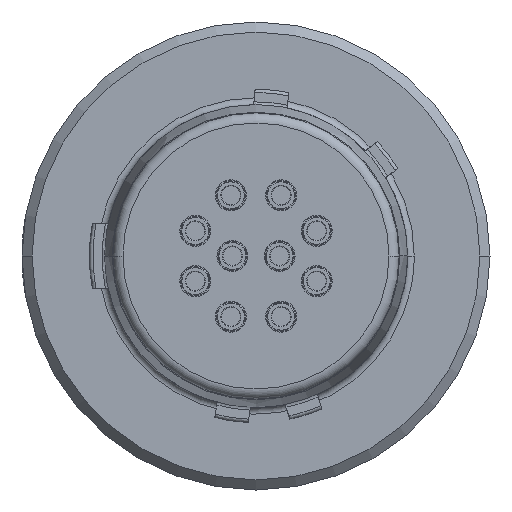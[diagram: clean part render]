
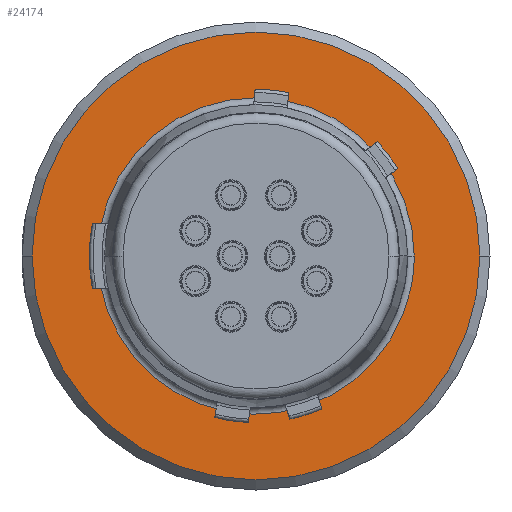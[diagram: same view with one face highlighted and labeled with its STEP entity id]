
A CAD part, left-side view. The second image highlights one B-rep face of the part: STEP entity #24174.
In plain terms, the highlighted planar face has unit normal (-1, 0, 0).
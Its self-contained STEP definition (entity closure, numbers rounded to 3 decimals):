
#6799=CARTESIAN_POINT('',(0.,0.,0.));
#6800=DIRECTION('',(1.,0.,0.));
#6801=DIRECTION('',(0.,1.,0.));
#6802=AXIS2_PLACEMENT_3D('',#6799,#6800,#6801);
#6804=CARTESIAN_POINT('',(0.,0.,0.));
#6805=DIRECTION('',(1.,0.,0.));
#6806=DIRECTION('',(0.,0.,1.));
#6807=AXIS2_PLACEMENT_3D('',#6804,#6805,#6806);
#6809=CARTESIAN_POINT('',(0.,0.,0.));
#6810=DIRECTION('',(1.,0.,0.));
#6811=DIRECTION('',(0.,-1.,0.));
#6812=AXIS2_PLACEMENT_3D('',#6809,#6810,#6811);
#6814=CARTESIAN_POINT('',(0.,0.,0.));
#6815=DIRECTION('',(1.,0.,0.));
#6816=DIRECTION('',(0.,0.,-1.));
#6817=AXIS2_PLACEMENT_3D('',#6814,#6815,#6816);
#6819=CARTESIAN_POINT('',(0.,0.,0.));
#6820=DIRECTION('',(-1.,0.,0.));
#6821=DIRECTION('',(0.,-1.,0.));
#6822=AXIS2_PLACEMENT_3D('',#6819,#6820,#6821);
#6824=CARTESIAN_POINT('',(0.,0.,0.));
#6825=DIRECTION('',(-1.,0.,0.));
#6826=DIRECTION('',(0.,1.,0.));
#6827=AXIS2_PLACEMENT_3D('',#6824,#6825,#6826);
#6829=CARTESIAN_POINT('',(0.,0.,0.));
#6830=DIRECTION('',(-1.,0.,0.));
#6831=DIRECTION('',(0.,-0.977,-0.214));
#6832=AXIS2_PLACEMENT_3D('',#6829,#6830,#6831);
#11337=CARTESIAN_POINT('',(0.,6.65,0.));
#11338=VERTEX_POINT('',#11337);
#11339=CARTESIAN_POINT('',(0.,-6.65,0.));
#11340=CARTESIAN_POINT('',(0.,0.,-6.65));
#11341=VERTEX_POINT('',#11339);
#11342=VERTEX_POINT('',#11340);
#11343=CARTESIAN_POINT('',(0.,0.,6.65));
#11344=VERTEX_POINT('',#11343);
#11345=CARTESIAN_POINT('',(0.,-4.7,0.));
#11346=CARTESIAN_POINT('',(0.,4.7,0.001));
#11347=VERTEX_POINT('',#11345);
#11348=VERTEX_POINT('',#11346);
#11349=CARTESIAN_POINT('',(0.,-4.591,-1.004));
#11350=VERTEX_POINT('',#11349);
#24155=CARTESIAN_POINT('',(0.,0.,0.));
#24156=DIRECTION('',(-1.,0.,0.));
#24157=DIRECTION('',(0.,-1.,0.));
#24158=AXIS2_PLACEMENT_3D('',#24155,#24156,#24157);
#24159=PLANE('',#24158);
#24160=ORIENTED_EDGE('',*,*,#24142,.T.);
#24161=ORIENTED_EDGE('',*,*,#24140,.T.);
#24162=ORIENTED_EDGE('',*,*,#24118,.T.);
#24163=ORIENTED_EDGE('',*,*,#24116,.T.);
#24164=EDGE_LOOP('',(#24160,#24161,#24162,#24163));
#24165=FACE_OUTER_BOUND('',#24164,.F.);
#24167=ORIENTED_EDGE('',*,*,#24166,.T.);
#24169=ORIENTED_EDGE('',*,*,#24168,.T.);
#24171=ORIENTED_EDGE('',*,*,#24170,.T.);
#24172=EDGE_LOOP('',(#24167,#24169,#24171));
#24173=FACE_BOUND('',#24172,.F.);
#6803=CIRCLE('',#6802,6.65);
#6808=CIRCLE('',#6807,6.65);
#6813=CIRCLE('',#6812,6.65);
#6818=CIRCLE('',#6817,6.65);
#6823=CIRCLE('',#6822,4.7);
#6828=CIRCLE('',#6827,4.7);
#6833=CIRCLE('',#6832,4.7);
#24116=EDGE_CURVE('',#11342,#11338,#6818,.T.);
#24118=EDGE_CURVE('',#11341,#11342,#6813,.T.);
#24140=EDGE_CURVE('',#11344,#11341,#6808,.T.);
#24142=EDGE_CURVE('',#11338,#11344,#6803,.T.);
#24166=EDGE_CURVE('',#11347,#11348,#6823,.T.);
#24168=EDGE_CURVE('',#11348,#11350,#6828,.T.);
#24170=EDGE_CURVE('',#11350,#11347,#6833,.T.);
#24174=ADVANCED_FACE('',(#24165,#24173),#24159,.T.);
